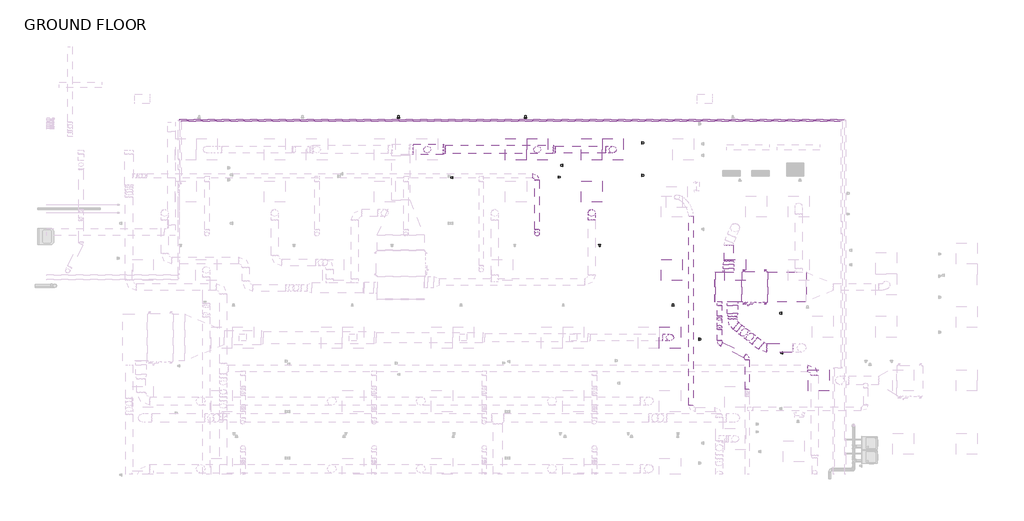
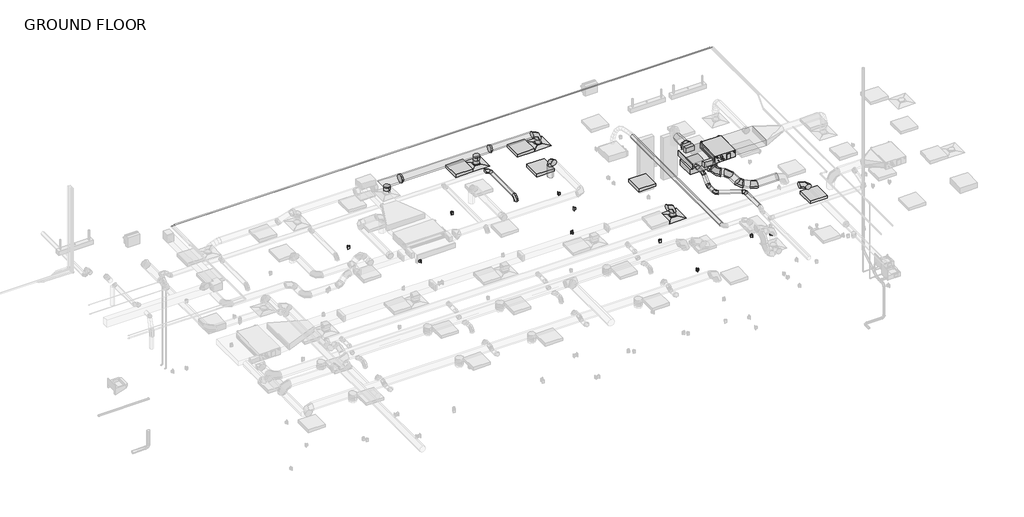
# One storey, part 19 of 22: 26 duct segments, 24 duct fittings, 8 proxies, 6 light fixtures, 3 air terminals, 3 electric appliances, 2 pipe segments, 2 switching devices.
"""IFC4 building model written with IfcOpenShell, lengths in millimetres."""

from ifc_helpers import new_model, si_unit, point, frame, frame_2d, origin, place, context, project, spatial, polyline, circle_curve, trimmed, segment, composite_curve, outline, extrude, transform, mapped, element, save
from components import air_terminal_e9020785, mechanical_equipment_7e022f85, duplex_receptacle_countertop_10251bba, rectangular_endcap_standard_66f4b2b8, rectangular_takeoff_standard_a8f316fd, rectangular_to_round_transition_angle_45_degree_0bd342e9, round_elbow_1_d_f2406e55, round_elbow_1_d_feab72b3, round_elbow_1_d_a253342a, round_elbow_1_d_c80420c1, round_elbow_1_d_ea3dccb8, round_elbow_1_d_af7a7a65, round_elbow_1_d_21bb6db6, round_takeoff_standard_7fe2b2d5, round_takeoff_standard_a75a9c41, round_takeoff_standard_ca4b4131, round_transition_angle_45_degree_a6ab1efb, round_transition_angle_45_degree_2c0294df, telephone_outlet_data_plain_18c24199, troffer_corner_insert_2x2_3_lamp_emergency_29e3a813, troffer_corner_insert_2x2_3lamp_e67c7f8f

model = new_model("IFC4")

# Units and contexts
model_context = context("Model", 3, world=origin())
ifc_project = project(units=[si_unit("LENGTHUNIT", "METRE", prefix="MILLI")], contexts=[model_context])

# Site, building, storey
site = spatial("IfcSite", under=ifc_project)
building = spatial("IfcBuilding", under=site)
storey = spatial("IfcBuildingStorey", under=building, Name="GROUND FLOOR", Elevation=30480.0)

# Air terminals
placement = place(None, origin())
air_terminal_shape = air_terminal_e9020785(model_context)
element("IfcAirTerminal", 1, ObjectType="Supply Diffuser - Rectangular Face Round Neck - Hosted : 24\"x24\" Face 8\" Neck - Hosted", at=placement, inside=storey, context=model_context, shape_type="MappedRepresentation", body=[
    mapped(air_terminal_shape, transform((6687.5045393, 6811.3695005, 33223.2), x_axis=(0.0, -1.0, 0.0), y_axis=(-1.0, 0.0, 0.0), z_axis=(0.0, 0.0, -1.0))),
])
element("IfcAirTerminal", 2, ObjectType="Supply Diffuser - Rectangular Face Round Neck - Hosted : 24\"x24\" Face 8\" Neck - Hosted", at=placement, inside=storey, context=model_context, shape_type="MappedRepresentation", body=[
    mapped(air_terminal_shape, transform((4506.2795393, 6811.3695005, 33223.2), x_axis=(0.0, -1.0, 0.0), y_axis=(-1.0, 0.0, 0.0), z_axis=(0.0, 0.0, -1.0))),
])
element("IfcAirTerminal", 3, ObjectType="Supply Diffuser - Rectangular Face Round Neck - Hosted : 24\"x24\" Face 8\" Neck - Hosted", at=placement, inside=storey, context=model_context, shape_type="MappedRepresentation", body=[
    mapped(air_terminal_shape, transform((8335.3295393, 1382.1195005, 33223.2), x_axis=(0.0, -1.0, 0.0), y_axis=(-1.0, 0.0, 0.0), z_axis=(0.0, 0.0, -1.0))),
])

# Proxies
mechanical_equipment_shape = mechanical_equipment_7e022f85(model_context)
element("IfcBuildingElementProxy", 4, Name="PEFY-P-NMAU-E_Medium_Static_Ducted : PEFY-P18NMAU-E", ObjectType="PEFY-P-NMAU-E_Medium_Static_Ducted : PEFY-P18NMAU-E", at=placement, inside=storey, context=model_context, shape_type="MappedRepresentation", body=[
    mapped(mechanical_equipment_shape, transform((10724.1343566, 2831.884404, 33832.8), x_axis=(0.0, -1.0, 0.0), y_axis=(1.0, 0.0, 0.0), z_axis=(0.0, 0.0, 1.0))),
])
duplex_receptacle_countertop_shape = duplex_receptacle_countertop_10251bba(model_context)
element("IfcBuildingElementProxy", 5, Name="Duplex Receptacle : Countertop", ObjectType="Duplex Receptacle : Countertop", at=placement, inside=storey, context=model_context, shape_type="MappedRepresentation", body=[
    mapped(duplex_receptacle_countertop_shape, transform((11573.8295393, 941.1895793, 31699.2), x_axis=(0.0, 1.0, 0.0), y_axis=(0.0, 0.0, 1.0), z_axis=(1.0, 0.0, 0.0))),
])
element("IfcBuildingElementProxy", 6, Name="Duplex Receptacle : Standard", ObjectType="Duplex Receptacle : Standard", at=placement, inside=storey, context=model_context, shape_type="MappedRepresentation", body=[
    mapped(duplex_receptacle_countertop_shape, transform((9173.5295393, 1338.7424206, 30937.2), x_axis=(0.0, -1.0, 0.0), y_axis=(0.0, 0.0, 1.0), z_axis=(-1.0, 0.0, 0.0))),
])
element("IfcBuildingElementProxy", 7, Name="Duplex Receptacle : Standard", ObjectType="Duplex Receptacle : Standard", at=placement, inside=storey, context=model_context, shape_type="MappedRepresentation", body=[
    mapped(duplex_receptacle_countertop_shape, transform((512.696222, 7725.7695005, 30937.2), x_axis=(-1.0, 0.0, 0.0), y_axis=(0.0, 0.0, -1.0), z_axis=(0.0, -1.0, 0.0))),
])
element("IfcBuildingElementProxy", 8, Name="Duplex Receptacle : Standard", ObjectType="Duplex Receptacle : Standard", at=placement, inside=storey, context=model_context, shape_type="MappedRepresentation", body=[
    mapped(duplex_receptacle_countertop_shape, transform((4175.0747127, 7725.7695005, 30937.2), x_axis=(-1.0, 0.0, 0.0), y_axis=(0.0, 0.0, -1.0), z_axis=(0.0, -1.0, 0.0))),
])
element("IfcBuildingElementProxy", 9, Name="Duplex Receptacle : Standard", ObjectType="Duplex Receptacle : Standard", at=placement, inside=storey, context=model_context, shape_type="MappedRepresentation", body=[
    mapped(duplex_receptacle_countertop_shape, transform((5115.8795393, 6012.9284472, 30937.2), x_axis=(0.0, -1.0, 0.0), y_axis=(0.0, 0.0, 1.0), z_axis=(-1.0, 0.0, 0.0))),
])
element("IfcBuildingElementProxy", 10, Name="Duplex Receptacle : Standard", ObjectType="Duplex Receptacle : Standard", at=placement, inside=storey, context=model_context, shape_type="MappedRepresentation", body=[
    mapped(duplex_receptacle_countertop_shape, transform((5239.7045393, 6355.0840427, 30937.2), x_axis=(0.0, 1.0, 0.0), y_axis=(0.0, 0.0, 1.0), z_axis=(1.0, 0.0, 0.0))),
])
element("IfcBuildingElementProxy", 11, Name="Duplex Receptacle : Standard", ObjectType="Duplex Receptacle : Standard", at=placement, inside=storey, context=model_context, shape_type="MappedRepresentation", body=[
    mapped(duplex_receptacle_countertop_shape, transform((7525.7045393, 6063.6181651, 30937.2), x_axis=(0.0, -1.0, 0.0), y_axis=(0.0, 0.0, 1.0), z_axis=(-1.0, 0.0, 0.0))),
])

# Duct fittings
rectangular_endcap_standard_shape = rectangular_endcap_standard_66f4b2b8(model_context)
element("IfcDuctFitting", 12, ObjectType="Rectangular Endcap : Standard", at=placement, inside=storey, context=model_context, shape_type="MappedRepresentation", body=[
    mapped(rectangular_endcap_standard_shape, transform((9644.6343566, 2841.896647, 33992.34375), x_axis=(-1.0, 0.0, 0.0), y_axis=(0.0, -1.0, 0.0), z_axis=(0.0, 0.0, 1.0))),
])
rectangular_takeoff_standard_shape = rectangular_takeoff_standard_a8f316fd(model_context)
element("IfcDuctFitting", 13, ObjectType="Rectangular Takeoff : Standard", at=placement, inside=storey, context=model_context, shape_type="MappedRepresentation", body=[
    mapped(rectangular_takeoff_standard_shape, transform((10137.7468891, 2414.065397, 33992.34375), x_axis=(0.0, -1.0, 0.0), y_axis=(-1.0, 0.0, 0.0), z_axis=(0.0, 0.0, -1.0))),
])
element("IfcDuctFitting", 14, ObjectType="Rectangular Takeoff : Standard", at=placement, inside=storey, context=model_context, shape_type="MappedRepresentation", body=[
    mapped(rectangular_takeoff_standard_shape, transform((10025.6343566, 3269.727897, 33992.34375), x_axis=(0.0, 1.0, 0.0), y_axis=(1.0, 0.0, 0.0), z_axis=(0.0, 0.0, -1.0))),
])
rectangular_to_round_transition_angle_45_degree_shape = rectangular_to_round_transition_angle_45_degree_0bd342e9(model_context)
element("IfcDuctFitting", 15, ObjectType="Rectangular to Round Transition - Angle : 45 Degree", at=placement, inside=storey, context=model_context, shape_type="MappedRepresentation", body=[
    mapped(rectangular_to_round_transition_angle_45_degree_shape, transform((10137.7468891, 2083.865397, 33992.34375), x_axis=(0.0, -1.0, 0.0), y_axis=(1.0, 0.0, 0.0), z_axis=(0.0, 0.0, 1.0))),
])
element("IfcDuctFitting", 16, ObjectType="Rectangular to Round Transition - Angle : 45 Degree", at=placement, inside=storey, context=model_context, shape_type="MappedRepresentation", body=[
    mapped(rectangular_to_round_transition_angle_45_degree_shape, transform((10025.6343566, 3498.327897, 33992.34375), x_axis=(0.0, 1.0, 0.0), y_axis=(-1.0, 0.0, 0.0), z_axis=(0.0, 0.0, 1.0))),
])
round_elbow_1_d_shape = round_elbow_1_d_f2406e55(model_context)
element("IfcDuctFitting", 17, ObjectType="Round Elbow : 1 D", at=placement, inside=storey, context=model_context, shape_type="MappedRepresentation", body=[
    mapped(round_elbow_1_d_shape, transform((11037.2545393, 1090.0195005, 33629.6), x_axis=(0.7856705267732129, -0.6186451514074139, 0.0), y_axis=(0.6186451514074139, 0.7856705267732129, 0.0), z_axis=(0.0, 0.0, 1.0))),
])
round_elbow_1_d_2_shape = round_elbow_1_d_feab72b3(model_context)
element("IfcDuctFitting", 18, ObjectType="Round Elbow : 1 D", at=placement, inside=storey, context=model_context, shape_type="MappedRepresentation", body=[
    mapped(round_elbow_1_d_2_shape, transform((10137.7468891, 1798.3011879, 33992.34375), x_axis=(0.0, -1.0, 0.0), y_axis=(1.0, 0.0, 0.0), z_axis=(0.0, 0.0, 1.0))),
])
round_elbow_1_d_3_shape = round_elbow_1_d_a253342a(model_context)
element("IfcDuctFitting", 19, ObjectType="Round Elbow : 1 D", at=placement, inside=storey, context=model_context, shape_type="MappedRepresentation", body=[
    mapped(round_elbow_1_d_3_shape, transform((8335.3295393, 1382.1195005, 33604.2), x_axis=(0.0, 0.0, 1.0), y_axis=(-1.0, 0.0, 0.0), z_axis=(0.0, -1.0, 0.0))),
])
element("IfcDuctFitting", 20, ObjectType="Round Elbow : 1 D", at=placement, inside=storey, context=model_context, shape_type="MappedRepresentation", body=[
    mapped(round_elbow_1_d_3_shape, transform((6687.5045393, 6811.3695005, 33629.6), x_axis=(1.0, 0.0, 0.0), y_axis=(0.0, 0.0, -1.0), z_axis=(0.0, 1.0, 0.0))),
])
element("IfcDuctFitting", 21, ObjectType="Round Elbow : 1 D", at=placement, inside=storey, context=model_context, shape_type="MappedRepresentation", body=[
    mapped(round_elbow_1_d_3_shape, transform((6077.9045393, 4982.5695005, 33947.89375), x_axis=(0.0, 0.0, 1.0), y_axis=(0.0, -1.0, 0.0), z_axis=(1.0, 0.0, 0.0))),
])
element("IfcDuctFitting", 22, ObjectType="Round Elbow : 1 D", at=placement, inside=storey, context=model_context, shape_type="MappedRepresentation", body=[
    mapped(round_elbow_1_d_3_shape, transform((12507.2795393, 493.3414929, 33528.0), x_axis=(0.0, 1.0, 0.0), y_axis=(-1.0, 0.0, 0.0), z_axis=(0.0, 0.0, 1.0))),
])
round_elbow_1_d_4_shape = round_elbow_1_d_c80420c1(model_context)
element("IfcDuctFitting", 23, ObjectType="Round Elbow : 1 D", at=placement, inside=storey, context=model_context, shape_type="MappedRepresentation", body=[
    mapped(round_elbow_1_d_4_shape, transform((4506.2795393, 4372.9695005, 33464.5), x_axis=(0.0, 0.0, 1.0), y_axis=(0.0, 1.0, 0.0), z_axis=(-1.0, 0.0, 0.0))),
])
element("IfcDuctFitting", 24, ObjectType="Round Elbow : 1 D", at=placement, inside=storey, context=model_context, shape_type="MappedRepresentation", body=[
    mapped(round_elbow_1_d_4_shape, transform((4506.2795393, 6049.3695005, 33464.5), x_axis=(0.0, 1.0, 0.0), y_axis=(-1.0, 0.0, 0.0), z_axis=(0.0, 0.0, 1.0))),
])
round_elbow_1_d_5_shape = round_elbow_1_d_ea3dccb8(model_context)
element("IfcDuctFitting", 25, ObjectType="Round Elbow : 1 D", at=placement, inside=storey, context=model_context, shape_type="MappedRepresentation", body=[
    mapped(round_elbow_1_d_5_shape, transform((10413.0302243, 1581.5402242, 33992.34375), x_axis=(0.7856705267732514, -0.6186451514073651, 0.0), y_axis=(0.0, 0.0, -1.0), z_axis=(0.6186451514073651, 0.7856705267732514, 0.0))),
])
element("IfcDuctFitting", 26, ObjectType="Round Elbow : 1 D", at=placement, inside=storey, context=model_context, shape_type="MappedRepresentation", body=[
    mapped(round_elbow_1_d_5_shape, transform((10698.0272974, 1357.130562, 33629.6), x_axis=(0.5555529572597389, -0.4374481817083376, -0.7071067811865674), y_axis=(0.5555529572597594, -0.4374481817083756, 0.7071067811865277), z_axis=(-0.618645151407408, -0.7856705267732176, 0.0))),
])
round_elbow_1_d_6_shape = round_elbow_1_d_af7a7a65(model_context)
element("IfcDuctFitting", 27, ObjectType="Round Elbow : 1 D", at=placement, inside=storey, context=model_context, shape_type="MappedRepresentation", body=[
    mapped(round_elbow_1_d_6_shape, transform((9756.9865694, 1956.865397, 33992.34375), x_axis=(0.0, -1.0, 0.0), y_axis=(0.0, 0.0, -1.0), z_axis=(1.0, 0.0, 0.0))),
])
element("IfcDuctFitting", 28, ObjectType="Round Elbow : 1 D", at=placement, inside=storey, context=model_context, shape_type="MappedRepresentation", body=[
    mapped(round_elbow_1_d_6_shape, transform((9756.9865694, 1663.3685291, 33705.8), x_axis=(0.0, -0.7155316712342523, -0.698580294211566), y_axis=(0.0, -0.698580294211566, 0.7155316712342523), z_axis=(-1.0, 0.0, 0.0))),
])
round_elbow_1_d_7_shape = round_elbow_1_d_21bb6db6(model_context)
element("IfcDuctFitting", 29, ObjectType="Round Elbow : 1 D", at=placement, inside=storey, context=model_context, shape_type="MappedRepresentation", body=[
    mapped(round_elbow_1_d_7_shape, transform((10560.5577502, 823.3195005, 33705.8), x_axis=(0.0, 1.0, 0.0), y_axis=(-1.0, 0.0, 0.0), z_axis=(0.0, 0.0, 1.0))),
])
element("IfcDuctFitting", 30, ObjectType="Round Elbow : 1 D", at=placement, inside=storey, context=model_context, shape_type="MappedRepresentation", body=[
    mapped(round_elbow_1_d_7_shape, transform((9756.9865694, 1223.9608568, 33705.8), x_axis=(0.0, -1.0, 0.0), y_axis=(0.9999999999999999, 0.0, 0.0), z_axis=(0.0, 0.0, 0.9999999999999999))),
])
round_takeoff_standard_shape = round_takeoff_standard_7fe2b2d5(model_context)
element("IfcDuctFitting", 31, ObjectType="Round Takeoff : Standard", at=placement, inside=storey, context=model_context, shape_type="MappedRepresentation", body=[
    mapped(round_takeoff_standard_shape, transform((9756.9865694, 2414.065397, 33992.34375), x_axis=(0.0, -1.0, 0.0), y_axis=(-1.0, 0.0, 0.0), z_axis=(0.0, 0.0, -1.0))),
])
round_takeoff_standard_2_shape = round_takeoff_standard_a75a9c41(model_context)
element("IfcDuctFitting", 32, ObjectType="Round Takeoff : Standard", at=placement, inside=storey, context=model_context, shape_type="MappedRepresentation", body=[
    mapped(round_takeoff_standard_2_shape, transform((1334.4545393, 6811.3695005, 33477.2), x_axis=(0.0, 0.0, -1.0), y_axis=(1.0, 0.0, 0.0), z_axis=(0.0, -1.0, 0.0))),
])
round_takeoff_standard_3_shape = round_takeoff_standard_ca4b4131(model_context)
element("IfcDuctFitting", 33, ObjectType="Round Takeoff : Standard", at=placement, inside=storey, context=model_context, shape_type="MappedRepresentation", body=[
    mapped(round_takeoff_standard_3_shape, transform((4506.2795393, 6811.3695005, 33502.6), x_axis=(0.0, 0.0, -1.0), y_axis=(1.0, 0.0, 0.0), z_axis=(0.0, -1.0, 0.0))),
])
round_transition_angle_45_degree_shape = round_transition_angle_45_degree_a6ab1efb(model_context)
element("IfcDuctFitting", 34, ObjectType="Round Transition - Angle : 45 Degree", at=placement, inside=storey, context=model_context, shape_type="MappedRepresentation", body=[
    mapped(round_transition_angle_45_degree_shape, transform((1795.1935718, 6811.3695005, 33629.6), x_axis=(1.0, 0.0, 0.0), y_axis=(0.0, 1.0, 0.0), z_axis=(0.0, 0.0, 1.0))),
])
round_transition_angle_45_degree_2_shape = round_transition_angle_45_degree_2c0294df(model_context)
element("IfcDuctFitting", 35, ObjectType="Round Transition - Angle : 45 Degree", at=placement, inside=storey, context=model_context, shape_type="MappedRepresentation", body=[
    mapped(round_transition_angle_45_degree_2_shape, transform((4970.1935718, 6811.3695005, 33629.6), x_axis=(1.0, 0.0, 0.0), y_axis=(0.0, 1.0, 0.0), z_axis=(0.0, 0.0, 1.0))),
])

# Duct segments
element("IfcDuctSegment", 36, ObjectType="Mitered Elbows / Taps", at=placement, inside=storey, context=model_context, shape_type="SweptSolid", body=[
    extrude(outline(polyline([(9985.3468891, 2312.465397), (10290.1468891, 2312.465397), (10290.1468891, 2083.865397), (9985.3468891, 2083.865397), (9985.3468891, 2312.465397)])), frame((0.0, 0.0, 33903.44375), z_axis=(0.0, 0.0, 1.0), x_axis=(1.0, 0.0, 0.0)), (0.0, 0.0, 1.0), 177.8),
])
element("IfcDuctSegment", 37, ObjectType="Mitered Elbows / Taps", at=placement, inside=storey, context=model_context, shape_type="SweptSolid", body=[
    extrude(outline(polyline([(10178.0343566, 3371.327897), (9873.2343566, 3371.327897), (9873.2343566, 3498.327897), (10178.0343566, 3498.327897), (10178.0343566, 3371.327897)])), frame((0.0, 0.0, 33903.44375), z_axis=(0.0, 0.0, 1.0), x_axis=(1.0, 0.0, 0.0)), (0.0, 0.0, 1.0), 177.8),
])
element("IfcDuctSegment", 38, ObjectType="Mitered Elbows / Taps", at=placement, inside=storey, context=model_context, shape_type="SweptSolid", body=[
    extrude(outline(polyline([(11152.7593566, 2414.065397), (11152.7593566, 3269.727897), (12257.9936831, 3269.727897), (12257.9936831, 2414.065397), (11152.7593566, 2414.065397)])), frame((0.0, 0.0, 33875.6625), z_axis=(0.0, 0.0, 1.0), x_axis=(1.0, 0.0, 0.0)), (0.0, 0.0, 1.0), 206.375),
])
element("IfcDuctSegment", 39, ObjectType="Mitered Elbows / Tees", at=placement, inside=storey, context=model_context, shape_type="SweptSolid", body=[
    extrude(outline(polyline([(10406.6343566, 3269.727897), (10406.6343566, 2414.065397), (9644.6343566, 2414.065397), (9644.6343566, 3269.727897), (10406.6343566, 3269.727897)])), frame((0.0, 0.0, 33902.65), z_axis=(0.0, 0.0, 1.0), x_axis=(1.0, 0.0, 0.0)), (0.0, 0.0, 1.0), 179.3875),
])
element("IfcDuctSegment", 40, ObjectType="Taps / Short Radius", at=placement, inside=storey, context=model_context, shape_type="SweptSolid", body=[
    extrude(outline(composite_curve([segment(trimmed(circle_curve(frame_2d((33877.25, 8938.5795393)), 63.5), [point((33877.25, 9002.0795393))], [point((33940.75, 8938.5795393))], False, "CARTESIAN"), True, "CONTINUOUS"), segment(trimmed(circle_curve(frame_2d((33877.25, 8938.5795393)), 63.5), [point((33940.75, 8938.5795393))], [point((33877.25, 8875.0795393))], False, "CARTESIAN"), True, "CONTINUOUS"), segment(trimmed(circle_curve(frame_2d((33877.25, 8938.5795393)), 63.5), [point((33877.25, 8875.0795393))], [point((33813.75, 8938.5795393))], False, "CARTESIAN"), True, "CONTINUOUS"), segment(trimmed(circle_curve(frame_2d((33877.25, 8938.5795393)), 63.5), [point((33813.75, 8938.5795393))], [point((33877.25, 9002.0795393))], False, "CARTESIAN"), True, "CONTINUOUS")], self_intersect=False)), frame((0.0, -564.6850038, 0.0), z_axis=(0.0, 1.0, 0.0), x_axis=(0.0, 0.0, 1.0)), (0.0, 0.0, 1.0), 5461.0),
])
element("IfcDuctSegment", 41, ObjectType="Taps / Short Radius", at=placement, inside=storey, context=model_context, shape_type="SweptSolid", body=[
    extrude(outline(composite_curve([segment(trimmed(circle_curve(frame_2d((8335.3295393, 1382.1195005)), 101.6), [point((8335.3295393, 1483.7195005))], [point((8436.9295393, 1382.1195005))], False, "CARTESIAN"), True, "CONTINUOUS"), segment(trimmed(circle_curve(frame_2d((8335.3295393, 1382.1195005)), 101.6), [point((8436.9295393, 1382.1195005))], [point((8335.3295393, 1280.5195005))], False, "CARTESIAN"), True, "CONTINUOUS"), segment(trimmed(circle_curve(frame_2d((8335.3295393, 1382.1195005)), 101.6), [point((8335.3295393, 1280.5195005))], [point((8233.7295393, 1382.1195005))], False, "CARTESIAN"), True, "CONTINUOUS"), segment(trimmed(circle_curve(frame_2d((8335.3295393, 1382.1195005)), 101.6), [point((8233.7295393, 1382.1195005))], [point((8335.3295393, 1483.7195005))], False, "CARTESIAN"), True, "CONTINUOUS")], self_intersect=False)), frame((0.0, 0.0, 33277.175), z_axis=(0.0, 0.0, 1.0), x_axis=(1.0, 0.0, 0.0)), (0.0, 0.0, 1.0), 123.825),
])
element("IfcDuctSegment", 42, ObjectType="Taps / Short Radius", at=placement, inside=storey, context=model_context, shape_type="SweptSolid", body=[
    extrude(outline(composite_curve([segment(trimmed(circle_curve(frame_2d((6811.3695005, 33629.6)), 152.4), [point((6658.9695005, 33629.6))], [point((6811.3695005, 33782.0))], False, "CARTESIAN"), True, "CONTINUOUS"), segment(trimmed(circle_curve(frame_2d((6811.3695005, 33629.6)), 152.4), [point((6811.3695005, 33782.0))], [point((6963.7695005, 33629.6))], False, "CARTESIAN"), True, "CONTINUOUS"), segment(trimmed(circle_curve(frame_2d((6811.3695005, 33629.6)), 152.4), [point((6963.7695005, 33629.6))], [point((6811.3695005, 33477.2))], False, "CARTESIAN"), True, "CONTINUOUS"), segment(trimmed(circle_curve(frame_2d((6811.3695005, 33629.6)), 152.4), [point((6811.3695005, 33477.2))], [point((6658.9695005, 33629.6))], False, "CARTESIAN"), True, "CONTINUOUS")], self_intersect=False)), frame((931.5935718, 0.0, 0.0), z_axis=(1.0, 0.0, 0.0), x_axis=(0.0, 1.0, 0.0)), (0.0, 0.0, 1.0), 863.6),
])
element("IfcDuctSegment", 43, ObjectType="Taps / Short Radius", at=placement, inside=storey, context=model_context, shape_type="SweptSolid", body=[
    extrude(outline(composite_curve([segment(trimmed(circle_curve(frame_2d((6811.3695005, 33629.6)), 127.0), [point((6684.3695005, 33629.6))], [point((6811.3695005, 33756.6))], False, "CARTESIAN"), True, "CONTINUOUS"), segment(trimmed(circle_curve(frame_2d((6811.3695005, 33629.6)), 127.0), [point((6811.3695005, 33756.6))], [point((6938.3695005, 33629.6))], False, "CARTESIAN"), True, "CONTINUOUS"), segment(trimmed(circle_curve(frame_2d((6811.3695005, 33629.6)), 127.0), [point((6938.3695005, 33629.6))], [point((6811.3695005, 33502.6))], False, "CARTESIAN"), True, "CONTINUOUS"), segment(trimmed(circle_curve(frame_2d((6811.3695005, 33629.6)), 127.0), [point((6811.3695005, 33502.6))], [point((6684.3695005, 33629.6))], False, "CARTESIAN"), True, "CONTINUOUS")], self_intersect=False)), frame((1856.5145963, 0.0, 0.0), z_axis=(1.0, 0.0, 0.0), x_axis=(0.0, 1.0, 0.0)), (0.0, 0.0, 1.0), 3113.6789755),
])
element("IfcDuctSegment", 44, ObjectType="Taps / Short Radius", at=placement, inside=storey, context=model_context, shape_type="SweptSolid", body=[
    extrude(outline(composite_curve([segment(trimmed(circle_curve(frame_2d((6811.3695005, 33629.6)), 101.6), [point((6709.7695005, 33629.6))], [point((6811.3695005, 33731.2))], False, "CARTESIAN"), True, "CONTINUOUS"), segment(trimmed(circle_curve(frame_2d((6811.3695005, 33629.6)), 101.6), [point((6811.3695005, 33731.2))], [point((6912.9695005, 33629.6))], False, "CARTESIAN"), True, "CONTINUOUS"), segment(trimmed(circle_curve(frame_2d((6811.3695005, 33629.6)), 101.6), [point((6912.9695005, 33629.6))], [point((6811.3695005, 33528.0))], False, "CARTESIAN"), True, "CONTINUOUS"), segment(trimmed(circle_curve(frame_2d((6811.3695005, 33629.6)), 101.6), [point((6811.3695005, 33528.0))], [point((6709.7695005, 33629.6))], False, "CARTESIAN"), True, "CONTINUOUS")], self_intersect=False)), frame((5031.5145963, 0.0, 0.0), z_axis=(1.0, 0.0, 0.0), x_axis=(0.0, 1.0, 0.0)), (0.0, 0.0, 1.0), 1452.789943),
])
element("IfcDuctSegment", 45, ObjectType="Taps / Short Radius", at=placement, inside=storey, context=model_context, shape_type="SweptSolid", body=[
    extrude(outline(composite_curve([segment(trimmed(circle_curve(frame_2d((6687.5045393, 6811.3695005)), 101.6), [point((6687.5045393, 6912.9695005))], [point((6789.1045393, 6811.3695005))], False, "CARTESIAN"), True, "CONTINUOUS"), segment(trimmed(circle_curve(frame_2d((6687.5045393, 6811.3695005)), 101.6), [point((6789.1045393, 6811.3695005))], [point((6687.5045393, 6709.7695005))], False, "CARTESIAN"), True, "CONTINUOUS"), segment(trimmed(circle_curve(frame_2d((6687.5045393, 6811.3695005)), 101.6), [point((6687.5045393, 6709.7695005))], [point((6585.9045393, 6811.3695005))], False, "CARTESIAN"), True, "CONTINUOUS"), segment(trimmed(circle_curve(frame_2d((6687.5045393, 6811.3695005)), 101.6), [point((6585.9045393, 6811.3695005))], [point((6687.5045393, 6912.9695005))], False, "CARTESIAN"), True, "CONTINUOUS")], self_intersect=False)), frame((0.0, 0.0, 33277.175), z_axis=(0.0, 0.0, 1.0), x_axis=(1.0, 0.0, 0.0)), (0.0, 0.0, 1.0), 149.225),
])
element("IfcDuctSegment", 46, ObjectType="Taps / Short Radius", at=placement, inside=storey, context=model_context, shape_type="SweptSolid", body=[
    extrude(outline(composite_curve([segment(trimmed(circle_curve(frame_2d((4506.2795393, 6811.3695005)), 101.6), [point((4607.8795393, 6811.3695005))], [point((4506.2795393, 6709.7695005))], False, "CARTESIAN"), True, "CONTINUOUS"), segment(trimmed(circle_curve(frame_2d((4506.2795393, 6811.3695005)), 101.6), [point((4506.2795393, 6709.7695005))], [point((4404.6795393, 6811.3695005))], False, "CARTESIAN"), True, "CONTINUOUS"), segment(trimmed(circle_curve(frame_2d((4506.2795393, 6811.3695005)), 101.6), [point((4404.6795393, 6811.3695005))], [point((4506.2795393, 6912.9695005))], False, "CARTESIAN"), True, "CONTINUOUS"), segment(trimmed(circle_curve(frame_2d((4506.2795393, 6811.3695005)), 101.6), [point((4506.2795393, 6912.9695005))], [point((4607.8795393, 6811.3695005))], False, "CARTESIAN"), True, "CONTINUOUS")], self_intersect=False)), frame((0.0, 0.0, 33277.175), z_axis=(0.0, 0.0, 1.0), x_axis=(1.0, 0.0, 0.0)), (0.0, 0.0, 1.0), 123.825),
])
element("IfcDuctSegment", 47, ObjectType="Taps / Short Radius", at=placement, inside=storey, context=model_context, shape_type="SweptSolid", body=[
    extrude(outline(composite_curve([segment(trimmed(circle_curve(frame_2d((1334.4545393, 6811.3695005)), 101.6), [point((1436.0545393, 6811.3695005))], [point((1334.4545393, 6709.7695005))], False, "CARTESIAN"), True, "CONTINUOUS"), segment(trimmed(circle_curve(frame_2d((1334.4545393, 6811.3695005)), 101.6), [point((1334.4545393, 6709.7695005))], [point((1232.8545393, 6811.3695005))], False, "CARTESIAN"), True, "CONTINUOUS"), segment(trimmed(circle_curve(frame_2d((1334.4545393, 6811.3695005)), 101.6), [point((1232.8545393, 6811.3695005))], [point((1334.4545393, 6912.9695005))], False, "CARTESIAN"), True, "CONTINUOUS"), segment(trimmed(circle_curve(frame_2d((1334.4545393, 6811.3695005)), 101.6), [point((1334.4545393, 6912.9695005))], [point((1436.0545393, 6811.3695005))], False, "CARTESIAN"), True, "CONTINUOUS")], self_intersect=False)), frame((0.0, 0.0, 33277.175), z_axis=(0.0, 0.0, 1.0), x_axis=(1.0, 0.0, 0.0)), (0.0, 0.0, 1.0), 98.425),
])
element("IfcDuctSegment", 48, ObjectType="Taps / Short Radius", at=placement, inside=storey, context=model_context, shape_type="SweptSolid", body=[
    extrude(outline(composite_curve([segment(trimmed(circle_curve(frame_2d((6077.9045393, 4982.5695005)), 101.6), [point((5976.3045393, 4982.5695005))], [point((6077.9045393, 5084.1695005))], False, "CARTESIAN"), True, "CONTINUOUS"), segment(trimmed(circle_curve(frame_2d((6077.9045393, 4982.5695005)), 101.6), [point((6077.9045393, 5084.1695005))], [point((6179.5045393, 4982.5695005))], False, "CARTESIAN"), True, "CONTINUOUS"), segment(trimmed(circle_curve(frame_2d((6077.9045393, 4982.5695005)), 101.6), [point((6179.5045393, 4982.5695005))], [point((6077.9045393, 4880.9695005))], False, "CARTESIAN"), True, "CONTINUOUS"), segment(trimmed(circle_curve(frame_2d((6077.9045393, 4982.5695005)), 101.6), [point((6077.9045393, 4880.9695005))], [point((5976.3045393, 4982.5695005))], False, "CARTESIAN"), True, "CONTINUOUS")], self_intersect=False)), frame((0.0, 0.0, 33324.8), z_axis=(0.0, 0.0, 1.0), x_axis=(1.0, 0.0, 0.0)), (0.0, 0.0, 1.0), 419.89375),
])
element("IfcDuctSegment", 49, ObjectType="Taps / Short Radius", at=placement, inside=storey, context=model_context, shape_type="SweptSolid", body=[
    extrude(outline(composite_curve([segment(trimmed(circle_curve(frame_2d((33992.34375, 9756.9865694)), 63.5), [point((33992.34375, 9693.4865694))], [point((33928.84375, 9756.9865694))], False, "CARTESIAN"), True, "CONTINUOUS"), segment(trimmed(circle_curve(frame_2d((33992.34375, 9756.9865694)), 63.5), [point((33928.84375, 9756.9865694))], [point((33992.34375, 9820.4865694))], False, "CARTESIAN"), True, "CONTINUOUS"), segment(trimmed(circle_curve(frame_2d((33992.34375, 9756.9865694)), 63.5), [point((33992.34375, 9820.4865694))], [point((34055.84375, 9756.9865694))], False, "CARTESIAN"), True, "CONTINUOUS"), segment(trimmed(circle_curve(frame_2d((33992.34375, 9756.9865694)), 63.5), [point((34055.84375, 9756.9865694))], [point((33992.34375, 9693.4865694))], False, "CARTESIAN"), True, "CONTINUOUS")], self_intersect=False)), frame((0.0, 2008.5809665, 0.0), z_axis=(0.0, 1.0, 0.0), x_axis=(0.0, 0.0, 1.0)), (0.0, 0.0, 1.0), 303.8844305),
])
element("IfcDuctSegment", 50, ObjectType="Taps / Short Radius", at=placement, inside=storey, context=model_context, shape_type="SweptSolid", body=[
    extrude(outline(composite_curve([segment(trimmed(circle_curve(frame_2d((0.0, -63.5)), 63.5), [point((-63.5, -63.5))], [point((0.0, 0.0))], False, "CARTESIAN"), True, "CONTINUOUS"), segment(trimmed(circle_curve(frame_2d((0.0, -63.5)), 63.5), [point((0.0, 0.0))], [point((63.5, -63.5))], False, "CARTESIAN"), True, "CONTINUOUS"), segment(trimmed(circle_curve(frame_2d((0.0, -63.5)), 63.5), [point((63.5, -63.5))], [point((0.0, -127.0))], False, "CARTESIAN"), True, "CONTINUOUS"), segment(trimmed(circle_curve(frame_2d((0.0, -63.5)), 63.5), [point((0.0, -127.0))], [point((-63.5, -63.5))], False, "CARTESIAN"), True, "CONTINUOUS")], self_intersect=False)), frame((9756.9865694, 1744.7325056, 33696.4912166), z_axis=(0.0, 0.7155316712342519, 0.6985802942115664), x_axis=(1.0, 0.0, 0.0)), (0.0, 0.0, 1.0), 306.7489826),
])
element("IfcDuctSegment", 51, ObjectType="Taps / Short Radius", at=placement, inside=storey, context=model_context, shape_type="SweptSolid", body=[
    extrude(outline(composite_curve([segment(trimmed(circle_curve(frame_2d((33705.8, 10560.5577502)), 63.5), [point((33705.8, 10624.0577502))], [point((33769.3, 10560.5577502))], False, "CARTESIAN"), True, "CONTINUOUS"), segment(trimmed(circle_curve(frame_2d((33705.8, 10560.5577502)), 63.5), [point((33769.3, 10560.5577502))], [point((33705.8, 10497.0577502))], False, "CARTESIAN"), True, "CONTINUOUS"), segment(trimmed(circle_curve(frame_2d((33705.8, 10560.5577502)), 63.5), [point((33705.8, 10497.0577502))], [point((33642.3, 10560.5577502))], False, "CARTESIAN"), True, "CONTINUOUS"), segment(trimmed(circle_curve(frame_2d((33705.8, 10560.5577502)), 63.5), [point((33642.3, 10560.5577502))], [point((33705.8, 10624.0577502))], False, "CARTESIAN"), True, "CONTINUOUS")], self_intersect=False)), frame((0.0, -104.3657402, 0.0), z_axis=(0.0, 1.0, 0.0), x_axis=(0.0, 0.0, 1.0)), (0.0, 0.0, 1.0), 849.0948661),
])
element("IfcDuctSegment", 52, ObjectType="Taps / Short Radius", at=placement, inside=storey, context=model_context, shape_type="SweptSolid", body=[
    extrude(outline(composite_curve([segment(trimmed(circle_curve(frame_2d((0.0, 63.5)), 63.5), [point((63.4999999, 63.5))], [point((0.0, 0.0))], False, "CARTESIAN"), True, "CONTINUOUS"), segment(trimmed(circle_curve(frame_2d((0.0, 63.5)), 63.5), [point((0.0, 0.0))], [point((-63.5, 63.5))], False, "CARTESIAN"), True, "CONTINUOUS"), segment(trimmed(circle_curve(frame_2d((0.0, 63.5)), 63.5), [point((-63.5, 63.5))], [point((0.0, 127.0))], False, "CARTESIAN"), True, "CONTINUOUS"), segment(trimmed(circle_curve(frame_2d((0.0, 63.5)), 63.5), [point((0.0, 127.0))], [point((63.4999999, 63.5))], False, "CARTESIAN"), True, "CONTINUOUS")], self_intersect=False)), frame((10490.2243678, 858.3860415, 33769.3), z_axis=(-0.8949363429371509, 0.44619383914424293, 0.0), x_axis=(0.44619383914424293, 0.8949363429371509, 0.0)), (0.0, 0.0, 1.0), 740.7280095),
])
element("IfcDuctSegment", 53, ObjectType="Taps / Short Radius", at=placement, inside=storey, context=model_context, shape_type="SweptSolid", body=[
    extrude(outline(composite_curve([segment(trimmed(circle_curve(frame_2d((33705.8, 9756.9865694)), 63.5), [point((33705.8, 9693.4865694))], [point((33642.3, 9756.9865694))], False, "CARTESIAN"), True, "CONTINUOUS"), segment(trimmed(circle_curve(frame_2d((33705.8, 9756.9865694)), 63.5), [point((33642.3, 9756.9865694))], [point((33705.8, 9820.4865694))], False, "CARTESIAN"), True, "CONTINUOUS"), segment(trimmed(circle_curve(frame_2d((33705.8, 9756.9865694)), 63.5), [point((33705.8, 9820.4865694))], [point((33769.3, 9756.9865694))], False, "CARTESIAN"), True, "CONTINUOUS"), segment(trimmed(circle_curve(frame_2d((33705.8, 9756.9865694)), 63.5), [point((33769.3, 9756.9865694))], [point((33705.8, 9693.4865694))], False, "CARTESIAN"), True, "CONTINUOUS")], self_intersect=False)), frame((0.0, 1302.5512314, 0.0), z_axis=(0.0, 1.0, 0.0), x_axis=(0.0, 0.0, 1.0)), (0.0, 0.0, 1.0), 309.1017282),
])
element("IfcDuctSegment", 54, ObjectType="Taps / Short Radius", at=placement, inside=storey, context=model_context, shape_type="SweptSolid", body=[
    extrude(outline(composite_curve([segment(trimmed(circle_curve(frame_2d((33464.5, 4506.2795393)), 63.5), [point((33464.5, 4569.7795393))], [point((33528.0, 4506.2795393))], False, "CARTESIAN"), True, "CONTINUOUS"), segment(trimmed(circle_curve(frame_2d((33464.5, 4506.2795393)), 63.5), [point((33528.0, 4506.2795393))], [point((33464.5, 4442.7795393))], False, "CARTESIAN"), True, "CONTINUOUS"), segment(trimmed(circle_curve(frame_2d((33464.5, 4506.2795393)), 63.5), [point((33464.5, 4442.7795393))], [point((33401.0, 4506.2795393))], False, "CARTESIAN"), True, "CONTINUOUS"), segment(trimmed(circle_curve(frame_2d((33464.5, 4506.2795393)), 63.5), [point((33401.0, 4506.2795393))], [point((33464.5, 4569.7795393))], False, "CARTESIAN"), True, "CONTINUOUS")], self_intersect=False)), frame((0.0, 4499.9695005, 0.0), z_axis=(0.0, 1.0, 0.0), x_axis=(0.0, 0.0, 1.0)), (0.0, 0.0, 1.0), 1422.4),
])
element("IfcDuctSegment", 55, ObjectType="Taps / Short Radius", at=placement, inside=storey, context=model_context, shape_type="SweptSolid", body=[
    extrude(outline(composite_curve([segment(trimmed(circle_curve(frame_2d((4506.2795393, 4372.9695005)), 63.5), [point((4569.7795393, 4372.9695005))], [point((4506.2795393, 4309.4695005))], False, "CARTESIAN"), True, "CONTINUOUS"), segment(trimmed(circle_curve(frame_2d((4506.2795393, 4372.9695005)), 63.5), [point((4506.2795393, 4309.4695005))], [point((4442.7795393, 4372.9695005))], False, "CARTESIAN"), True, "CONTINUOUS"), segment(trimmed(circle_curve(frame_2d((4506.2795393, 4372.9695005)), 63.5), [point((4442.7795393, 4372.9695005))], [point((4506.2795393, 4436.4695005))], False, "CARTESIAN"), True, "CONTINUOUS"), segment(trimmed(circle_curve(frame_2d((4506.2795393, 4372.9695005)), 63.5), [point((4506.2795393, 4436.4695005))], [point((4569.7795393, 4372.9695005))], False, "CARTESIAN"), True, "CONTINUOUS")], self_intersect=False)), frame((0.0, 0.0, 33324.8), z_axis=(0.0, 0.0, 1.0), x_axis=(1.0, 0.0, 0.0)), (0.0, 0.0, 1.0), 12.7),
])
element("IfcDuctSegment", 56, ObjectType="Taps / Short Radius", at=placement, inside=storey, context=model_context, shape_type="SweptSolid", body=[
    extrude(outline(composite_curve([segment(trimmed(circle_curve(frame_2d((33992.34375, 10137.7468891)), 127.0), [point((33992.34375, 10010.7468891))], [point((33865.34375, 10137.7468891))], False, "CARTESIAN"), True, "CONTINUOUS"), segment(trimmed(circle_curve(frame_2d((33992.34375, 10137.7468891)), 127.0), [point((33865.34375, 10137.7468891))], [point((33992.34375, 10264.7468891))], False, "CARTESIAN"), True, "CONTINUOUS"), segment(trimmed(circle_curve(frame_2d((33992.34375, 10137.7468891)), 127.0), [point((33992.34375, 10264.7468891))], [point((34119.34375, 10137.7468891))], False, "CARTESIAN"), True, "CONTINUOUS"), segment(trimmed(circle_curve(frame_2d((33992.34375, 10137.7468891)), 127.0), [point((34119.34375, 10137.7468891))], [point((33992.34375, 10010.7468891))], False, "CARTESIAN"), True, "CONTINUOUS")], self_intersect=False)), frame((0.0, 1921.5896762, 0.0), z_axis=(0.0, 1.0, 0.0), x_axis=(0.0, 0.0, 1.0)), (0.0, 0.0, 1.0), 70.2941841),
])
element("IfcDuctSegment", 57, ObjectType="Taps / Short Radius", at=placement, inside=storey, context=model_context, shape_type="SweptSolid", body=[
    extrude(outline(composite_curve([segment(trimmed(circle_curve(frame_2d((33992.34375, 10025.6343566)), 127.0), [point((33992.34375, 10152.6343566))], [point((34119.34375, 10025.6343566))], False, "CARTESIAN"), True, "CONTINUOUS"), segment(trimmed(circle_curve(frame_2d((33992.34375, 10025.6343566)), 127.0), [point((34119.34375, 10025.6343566))], [point((33992.34375, 9898.6343566))], False, "CARTESIAN"), True, "CONTINUOUS"), segment(trimmed(circle_curve(frame_2d((33992.34375, 10025.6343566)), 127.0), [point((33992.34375, 9898.6343566))], [point((33865.34375, 10025.6343566))], False, "CARTESIAN"), True, "CONTINUOUS"), segment(trimmed(circle_curve(frame_2d((33992.34375, 10025.6343566)), 127.0), [point((33865.34375, 10025.6343566))], [point((33992.34375, 10152.6343566))], False, "CARTESIAN"), True, "CONTINUOUS")], self_intersect=False)), frame((0.0, 3590.3094337, 0.0), z_axis=(0.0, 1.0, 0.0), x_axis=(0.0, 0.0, 1.0)), (0.0, 0.0, 1.0), 466.7478413),
])
element("IfcDuctSegment", 58, ObjectType="Taps / Short Radius", at=placement, inside=storey, context=model_context, shape_type="SweptSolid", body=[
    extrude(outline(composite_curve([segment(trimmed(circle_curve(frame_2d((1090.0195005, 33629.6)), 127.0), [point((1217.0195005, 33629.6))], [point((1090.0195005, 33502.6))], False, "CARTESIAN"), True, "CONTINUOUS"), segment(trimmed(circle_curve(frame_2d((1090.0195005, 33629.6)), 127.0), [point((1090.0195005, 33502.6))], [point((963.0195005, 33629.6))], False, "CARTESIAN"), True, "CONTINUOUS"), segment(trimmed(circle_curve(frame_2d((1090.0195005, 33629.6)), 127.0), [point((963.0195005, 33629.6))], [point((1090.0195005, 33756.6))], False, "CARTESIAN"), True, "CONTINUOUS"), segment(trimmed(circle_curve(frame_2d((1090.0195005, 33629.6)), 127.0), [point((1090.0195005, 33756.6))], [point((1217.0195005, 33629.6))], False, "CARTESIAN"), True, "CONTINUOUS")], self_intersect=False)), frame((11125.252782, 0.0, 0.0), z_axis=(1.0, 0.0, 0.0), x_axis=(0.0, 1.0, 0.0)), (0.0, 0.0, 1.0), 750.2017573),
])
element("IfcDuctSegment", 59, ObjectType="Taps / Short Radius", at=placement, inside=storey, context=model_context, shape_type="SweptSolid", body=[
    extrude(outline(composite_curve([segment(trimmed(circle_curve(frame_2d((0.0, -127.0)), 127.0), [point((-127.0, -127.0))], [point((0.0, 0.0))], False, "CARTESIAN"), True, "CONTINUOUS"), segment(trimmed(circle_curve(frame_2d((0.0, -127.0)), 127.0), [point((0.0, 0.0))], [point((127.0, -127.0))], False, "CARTESIAN"), True, "CONTINUOUS"), segment(trimmed(circle_curve(frame_2d((0.0, -127.0)), 127.0), [point((127.0, -127.0))], [point((0.0, -254.0))], False, "CARTESIAN"), True, "CONTINUOUS"), segment(trimmed(circle_curve(frame_2d((0.0, -127.0)), 127.0), [point((0.0, -254.0))], [point((-127.0, -127.0))], False, "CARTESIAN"), True, "CONTINUOUS")], self_intersect=False)), frame((10968.1169136, 1144.4591867, 33502.6), z_axis=(-0.7856705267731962, 0.6186451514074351, 0.0), x_axis=(0.6186451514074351, 0.7856705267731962, 0.0)), (0.0, 0.0, 1.0), 238.5593213),
])
element("IfcDuctSegment", 60, ObjectType="Taps / Short Radius", at=placement, inside=storey, context=model_context, shape_type="SweptSolid", body=[
    extrude(outline(composite_curve([segment(trimmed(circle_curve(frame_2d((0.0, -127.0)), 127.0), [point((-127.0, -127.0))], [point((0.0, 0.0))], False, "CARTESIAN"), True, "CONTINUOUS"), segment(trimmed(circle_curve(frame_2d((0.0, -127.0)), 127.0), [point((0.0, 0.0))], [point((127.0, -127.0))], False, "CARTESIAN"), True, "CONTINUOUS"), segment(trimmed(circle_curve(frame_2d((0.0, -127.0)), 127.0), [point((127.0, -127.0))], [point((0.0, -254.0))], False, "CARTESIAN"), True, "CONTINUOUS"), segment(trimmed(circle_curve(frame_2d((0.0, -127.0)), 127.0), [point((0.0, -254.0))], [point((-127.0, -127.0))], False, "CARTESIAN"), True, "CONTINUOUS")], self_intersect=False)), frame((10330.3696358, 1646.628032, 33865.34375), z_axis=(-0.7856705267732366, 0.6186451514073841, 0.0), x_axis=(0.6186451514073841, 0.7856705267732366, 0.0)), (0.0, 0.0, 1.0), 121.8813891),
])
element("IfcDuctSegment", 61, ObjectType="Taps / Short Radius", at=placement, inside=storey, context=model_context, shape_type="SweptSolid", body=[
    extrude(outline(composite_curve([segment(trimmed(circle_curve(frame_2d((0.0, -127.0)), 127.0), [point((94.4915392, -42.1451298))], [point((84.8548703, -221.4915393))], False, "CARTESIAN"), True, "CONTINUOUS"), segment(trimmed(circle_curve(frame_2d((0.0, -127.0)), 127.0), [point((84.8548703, -221.4915393))], [point((-94.4915392, -211.8548703))], False, "CARTESIAN"), True, "CONTINUOUS"), segment(trimmed(circle_curve(frame_2d((0.0, -127.0)), 127.0), [point((-94.4915392, -211.8548703))], [point((-84.8548703, -32.5084608))], False, "CARTESIAN"), True, "CONTINUOUS"), segment(trimmed(circle_curve(frame_2d((0.0, -127.0)), 127.0), [point((-84.8548703, -32.5084608))], [point((94.4915392, -42.1451298))], False, "CARTESIAN"), True, "CONTINUOUS")], self_intersect=False)), frame((10639.5774348, 1511.157715, 33637.1792694), z_axis=(-0.5555529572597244, 0.43744818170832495, 0.7071067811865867), x_axis=(0.8314811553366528, 0.2922803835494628, 0.4724523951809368)), (0.0, 0.0, 1.0), 302.5766412),
])

# Electric appliances
telephone_outlet_data_plain_shape = telephone_outlet_data_plain_18c24199(model_context)
element("IfcElectricAppliance", 62, ObjectType="Telephone Outlet - Data : Plain", at=placement, inside=storey, context=model_context, shape_type="MappedRepresentation", body=[
    mapped(telephone_outlet_data_plain_shape, transform((2067.8795393, 6879.3730328, 30079.95), x_axis=(0.0, 1.0, 0.0), y_axis=(0.0, 0.0, 1.0), z_axis=(1.0, 0.0, 0.0))),
])
element("IfcElectricAppliance", 63, ObjectType="Telephone Outlet - Data : Plain", at=placement, inside=storey, context=model_context, shape_type="MappedRepresentation", body=[
    mapped(telephone_outlet_data_plain_shape, transform((7525.7045393, 6125.1971789, 30079.95), x_axis=(0.0, -1.0, 0.0), y_axis=(0.0, 0.0, 1.0), z_axis=(-1.0, 0.0, 0.0))),
])
element("IfcElectricAppliance", 64, ObjectType="Telephone Outlet - Data : Plain", at=placement, inside=storey, context=model_context, shape_type="MappedRepresentation", body=[
    mapped(telephone_outlet_data_plain_shape, transform((11554.7795393, 2967.4523574, 30079.95), x_axis=(0.0, 1.0, 0.0), y_axis=(0.0, 0.0, 1.0), z_axis=(1.0, 0.0, 0.0))),
])

# Light fixtures
troffer_corner_insert_2x2_3_lamp_emergency_shape = troffer_corner_insert_2x2_3_lamp_emergency_29e3a813(model_context)
element("IfcLightFixture", 65, ObjectType="Troffer Corner Insert : 2x2 3 Lamp Emergency", at=placement, inside=storey, context=model_context, shape_type="MappedRepresentation", body=[
    mapped(troffer_corner_insert_2x2_3_lamp_emergency_shape, transform((10211.7545393, 3334.7445005, 30784.8), x_axis=(1.0, 0.0, 0.0), y_axis=(0.0, 1.0, 0.0), z_axis=(0.0, 0.0, 1.0))),
])
troffer_corner_insert_2x2_3lamp_shape = troffer_corner_insert_2x2_3lamp_e67c7f8f(model_context)
element("IfcLightFixture", 66, ObjectType="Troffer Corner Insert : 2x2 3Lamp", at=placement, inside=storey, context=model_context, shape_type="MappedRepresentation", body=[
    mapped(troffer_corner_insert_2x2_3lamp_shape, transform((3896.6795393, 6811.3695005, 30784.8), x_axis=(1.0, 0.0, 0.0), y_axis=(0.0, 1.0, 0.0), z_axis=(0.0, 0.0, 1.0))),
])
element("IfcLightFixture", 67, ObjectType="Troffer Corner Insert : 2x2 3Lamp", at=placement, inside=storey, context=model_context, shape_type="MappedRepresentation", body=[
    mapped(troffer_corner_insert_2x2_3lamp_shape, transform((6077.9045393, 6811.3695005, 30784.8), x_axis=(1.0, 0.0, 0.0), y_axis=(0.0, 1.0, 0.0), z_axis=(0.0, 0.0, 1.0))),
])
element("IfcLightFixture", 68, ObjectType="Troffer Corner Insert : 2x2 3Lamp", at=placement, inside=storey, context=model_context, shape_type="MappedRepresentation", body=[
    mapped(troffer_corner_insert_2x2_3lamp_shape, transform((6077.9045393, 5592.1695005, 30784.8), x_axis=(1.0, 0.0, 0.0), y_axis=(0.0, 1.0, 0.0), z_axis=(0.0, 0.0, 1.0))),
])
element("IfcLightFixture", 69, ObjectType="Troffer Corner Insert : 2x2 3Lamp", at=placement, inside=storey, context=model_context, shape_type="MappedRepresentation", body=[
    mapped(troffer_corner_insert_2x2_3lamp_shape, transform((8382.9545393, 3334.7445005, 30784.8), x_axis=(1.0, 0.0, 0.0), y_axis=(0.0, 1.0, 0.0), z_axis=(0.0, 0.0, 1.0))),
])
element("IfcLightFixture", 70, ObjectType="Troffer Corner Insert : 2x2 3Lamp", at=placement, inside=storey, context=model_context, shape_type="MappedRepresentation", body=[
    mapped(troffer_corner_insert_2x2_3lamp_shape, transform((12619.9920393, 151.8070005, 30784.8), x_axis=(1.0, 0.0, 0.0), y_axis=(0.0, 1.0, 0.0), z_axis=(0.0, 0.0, 1.0))),
])

# Pipe segments
element("IfcPipeSegment", 71, ObjectType="Copper Tubing", at=placement, inside=storey, context=model_context, shape_type="SweptSolid", body=[
    extrude(outline(composite_curve([segment(trimmed(circle_curve(frame_2d((7665.0593518, 33978.2831664)), 14.2875), [point((7650.7718518, 33978.2831664))], [point((7665.0593518, 33992.5706664))], False, "CARTESIAN"), True, "CONTINUOUS"), segment(trimmed(circle_curve(frame_2d((7665.0593518, 33978.2831664)), 14.2875), [point((7665.0593518, 33992.5706664))], [point((7679.3468518, 33978.2831664))], False, "CARTESIAN"), True, "CONTINUOUS"), segment(trimmed(circle_curve(frame_2d((7665.0593518, 33978.2831664)), 14.2875), [point((7679.3468518, 33978.2831664))], [point((7665.0593518, 33963.9956664))], False, "CARTESIAN"), True, "CONTINUOUS"), segment(trimmed(circle_curve(frame_2d((7665.0593518, 33978.2831664)), 14.2875), [point((7665.0593518, 33963.9956664))], [point((7650.7718518, 33978.2831664))], False, "CARTESIAN"), True, "CONTINUOUS")], self_intersect=False)), frame((-5798.1829607, 0.0, 0.0), z_axis=(1.0, 0.0, 0.0), x_axis=(0.0, 1.0, 0.0)), (0.0, 0.0, 1.0), 19161.1023784),
])
element("IfcPipeSegment", 72, ObjectType="Copper Tubing", at=placement, inside=storey, context=model_context, shape_type="SweptSolid", body=[
    extrude(outline(composite_curve([segment(trimmed(circle_curve(frame_2d((7628.1810166, 34023.2999997)), 14.2875), [point((7613.8935166, 34023.2999997))], [point((7628.1810166, 34037.5874997))], False, "CARTESIAN"), True, "CONTINUOUS"), segment(trimmed(circle_curve(frame_2d((7628.1810166, 34023.2999997)), 14.2875), [point((7628.1810166, 34037.5874997))], [point((7642.4685166, 34023.2999997))], False, "CARTESIAN"), True, "CONTINUOUS"), segment(trimmed(circle_curve(frame_2d((7628.1810166, 34023.2999997)), 14.2875), [point((7642.4685166, 34023.2999997))], [point((7628.1810166, 34009.0124997))], False, "CARTESIAN"), True, "CONTINUOUS"), segment(trimmed(circle_curve(frame_2d((7628.1810166, 34023.2999997)), 14.2875), [point((7628.1810166, 34009.0124997))], [point((7613.8935166, 34023.2999997))], False, "CARTESIAN"), True, "CONTINUOUS")], self_intersect=False)), frame((-5739.8068281, 0.0, 0.0), z_axis=(1.0, 0.0, 0.0), x_axis=(0.0, 1.0, 0.0)), (0.0, 0.0, 1.0), 19008.7205322),
])

# Switching devices
element("IfcSwitchingDevice", 73, ObjectType="Lighting Switches - Occupancy Sensor : Occupancy Sensor", at=placement, inside=storey, context=model_context, shape_type="MappedRepresentation", body=[
    mapped(duplex_receptacle_countertop_shape, transform((8421.1520659, 2296.5195005, 31699.2), x_axis=(1.0, 0.0, 0.0), y_axis=(0.0, 0.0, 1.0), z_axis=(0.0, -1.0, 0.0))),
])
element("IfcSwitchingDevice", 74, ObjectType="Lighting Switches - Occupancy Sensor : Occupancy Sensor", at=placement, inside=storey, context=model_context, shape_type="MappedRepresentation", body=[
    mapped(duplex_receptacle_countertop_shape, transform((6308.6768191, 4068.1695005, 31699.2), x_axis=(-1.0, 0.0, 0.0), y_axis=(0.0, 0.0, 1.0), z_axis=(0.0, 1.0, 0.0))),
])

save(model, "model.ifc")
